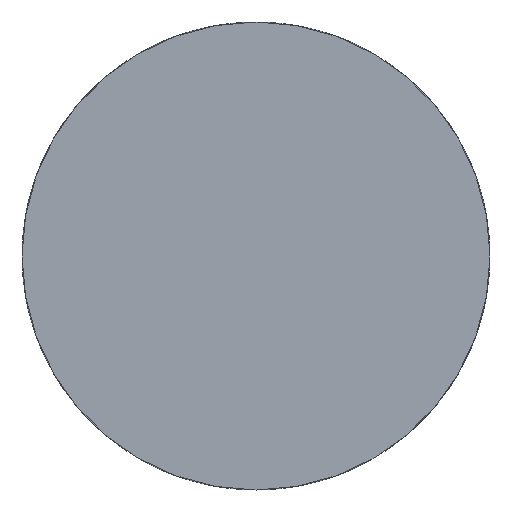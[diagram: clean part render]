
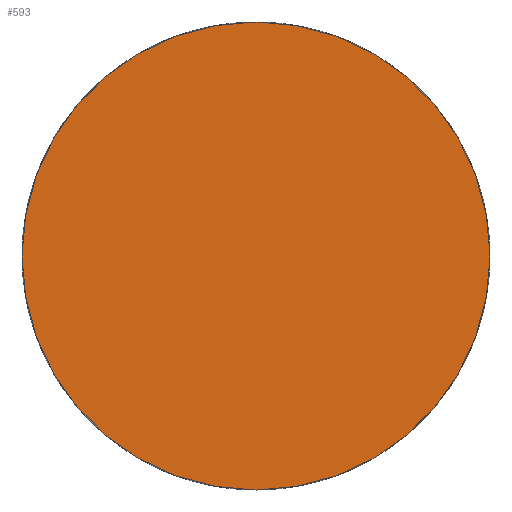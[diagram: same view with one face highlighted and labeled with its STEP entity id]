
A CAD part, left-side view. The second image highlights one B-rep face of the part: STEP entity #593.
In plain terms, the highlighted planar face has unit normal (-1, 0, 0).
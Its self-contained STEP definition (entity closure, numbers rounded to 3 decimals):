
#593 = ADVANCED_FACE( '', ( #1260 ), #1261, .F. );
#1260 = FACE_OUTER_BOUND( '', #1997, .T. );
#1261 = PLANE( '', #1998 );
#1997 = EDGE_LOOP( '', ( #3735 ) );
#1998 = AXIS2_PLACEMENT_3D( '', #3736, #3737, #3738 );
#3735 = ORIENTED_EDGE( '', *, *, #5138, .F. );
#3736 = CARTESIAN_POINT( '', ( 0., 0., 0. ) );
#3737 = DIRECTION( '', ( 1., 0., 0. ) );
#3738 = DIRECTION( '', ( 0., 0., -1. ) );
#5138 = EDGE_CURVE( '', #6448, #6448, #6449, .T. );
#6448 = VERTEX_POINT( '', #8132 );
#6449 = CIRCLE( '', #8133, 13.945 );
#8132 = CARTESIAN_POINT( '', ( 0., 0., -13.945 ) );
#8133 = AXIS2_PLACEMENT_3D( '', #9665, #9666, #9667 );
#9665 = CARTESIAN_POINT( '', ( 0., 0., 0. ) );
#9666 = DIRECTION( '', ( 1., 0., 0. ) );
#9667 = DIRECTION( '', ( 0., 0., -1. ) );
